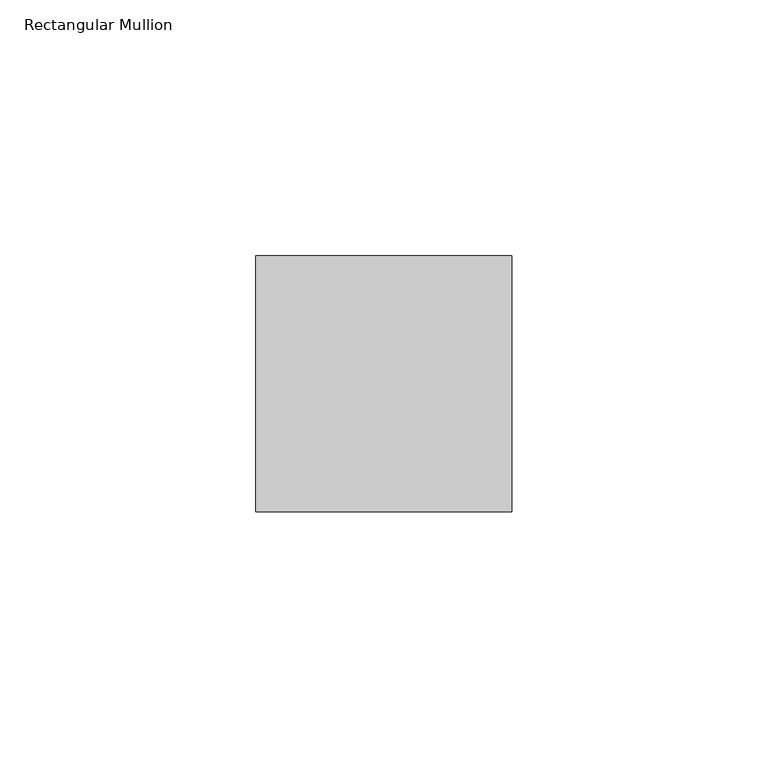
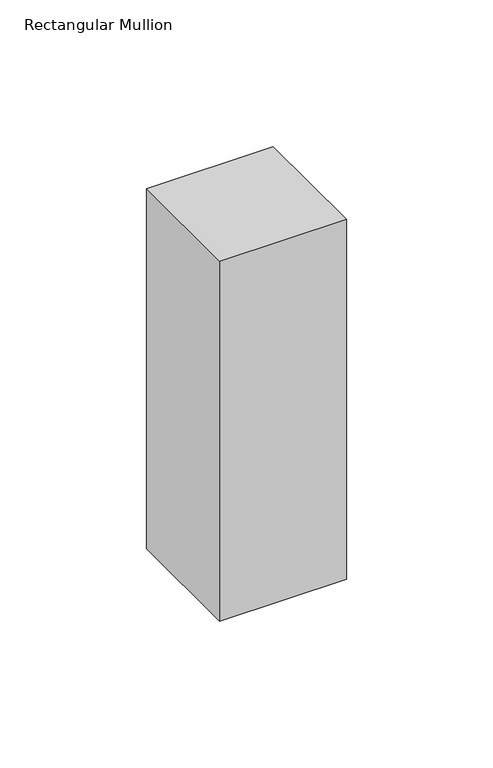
"""IFC4 building model written with IfcOpenShell, lengths in millimetres: member geometry, Rectangular Mullion : RSen_21_CWM_support profile 50x50 - left_gen_duco projects."""

from ifc_helpers import new_model, si_unit, frame, origin, place, context, project, spatial, polyline, outline, extrude, source, transform, mapped, element, save


def rectangular_mullion_6265e8b1(model_context):
    return source(origin(), model_context, "Body", "SweptSolid", [
        extrude(outline(polyline([(0.0, 1.0), (0.0, -49.0), (-50.0, -49.0), (-50.0, 1.0), (0.0, 1.0)])), frame((0.0, 0.0, -150.0), z_axis=(0.0, 0.0, 1.0), x_axis=(1.0, 0.0, 0.0)), (0.0, 0.0, 1.0), 150.0),
    ])


if __name__ == "__main__":
    model = new_model("IFC4")
    model_context = context("Model", 3, world=origin())
    ifc_project = project(units=[si_unit("LENGTHUNIT", "METRE", prefix="MILLI")], contexts=[model_context])
    site = spatial("IfcSite", under=ifc_project)
    building = spatial("IfcBuilding", under=site)
    placement = place(None, origin())
    rectangular_mullion_shape = rectangular_mullion_6265e8b1(model_context)
    element("IfcMember", 1, ObjectType="Rectangular Mullion : RSen_21_CWM_support profile 50x50 - left_gen_duco projects", at=placement, inside=building, context=model_context, shape_type="MappedRepresentation", body=[
        mapped(rectangular_mullion_shape, transform((0.0, 0.0, 0.0), x_axis=(1.0, 0.0, 0.0), y_axis=(0.0, 1.0, 0.0), z_axis=(0.0, 0.0, 1.0))),
    ])
    save(model, "model.ifc")
